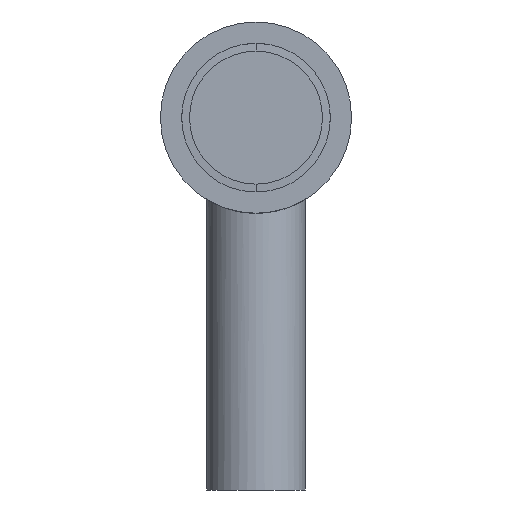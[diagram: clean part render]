
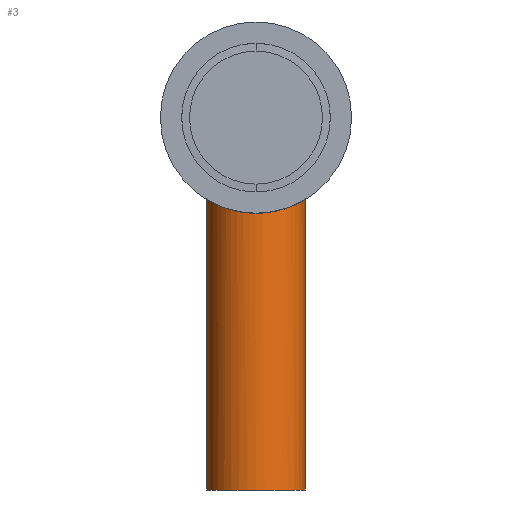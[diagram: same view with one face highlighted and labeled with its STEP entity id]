
A CAD part, front view. The second image highlights one B-rep face of the part: STEP entity #3.
In plain terms, the highlighted cylindrical face has radius 5 mm (diameter 10 mm), a partial arc.
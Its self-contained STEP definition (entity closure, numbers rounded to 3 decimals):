
#3 = ADVANCED_FACE ( 'NONE', ( #663 ), #19, .T. ) ;
#19 = CYLINDRICAL_SURFACE ( 'NONE', #236, 5. ) ;
#22 = CIRCLE ( 'NONE', #675, 5. ) ;
#40 = CARTESIAN_POINT ( 'NONE',  ( 1.637, -4.736, -11.772 ) ) ;
#53 = CARTESIAN_POINT ( 'NONE',  ( -4.992, -0.331, -10.524 ) ) ;
#57 = CARTESIAN_POINT ( 'NONE',  ( -1.636, -4.736, -11.772 ) ) ;
#62 = DIRECTION ( 'NONE',  ( 0., 0., 1. ) ) ;
#67 = ORIENTED_EDGE ( 'NONE', *, *, #222, .F. ) ;
#96 = CARTESIAN_POINT ( 'NONE',  ( 0., 0., -40. ) ) ;
#101 = DIRECTION ( 'NONE',  ( 1., 0., 0. ) ) ;
#107 = CARTESIAN_POINT ( 'NONE',  ( 4.487, -2.23, -10.808 ) ) ;
#116 = CARTESIAN_POINT ( 'NONE',  ( -4.933, -0.83, -10.559 ) ) ;
#121 = CARTESIAN_POINT ( 'NONE',  ( -0.673, -4.966, -11.888 ) ) ;
#130 = ORIENTED_EDGE ( 'NONE', *, *, #451, .F. ) ;
#135 = LINE ( 'NONE', #837, #639 ) ;
#136 = VECTOR ( 'NONE', #62, 1000. ) ;
#157 = CARTESIAN_POINT ( 'NONE',  ( 2.241, -4.482, -11.649 ) ) ;
#168 = CARTESIAN_POINT ( 'NONE',  ( 4.967, -0.662, -10.539 ) ) ;
#179 = CARTESIAN_POINT ( 'NONE',  ( -4.738, -1.63, -10.672 ) ) ;
#182 = CARTESIAN_POINT ( 'NONE',  ( 0., -5., -11.906 ) ) ;
#205 = EDGE_CURVE ( 'NONE', #407, #510, #22, .T. ) ;
#222 = EDGE_CURVE ( 'NONE', #300, #425, #562, .T. ) ;
#235 = ORIENTED_EDGE ( 'NONE', *, *, #629, .F. ) ;
#236 = AXIS2_PLACEMENT_3D ( 'NONE', #96, #273, #750 ) ;
#238 = DIRECTION ( 'NONE',  ( 0., 0., 1. ) ) ;
#247 = CARTESIAN_POINT ( 'NONE',  ( -4.33, -2.522, -10.889 ) ) ;
#253 = CARTESIAN_POINT ( 'NONE',  ( 5., 0., -40. ) ) ;
#273 = DIRECTION ( 'NONE',  ( 0., 0., 1. ) ) ;
#300 = VERTEX_POINT ( 'NONE', #785 ) ;
#301 = CARTESIAN_POINT ( 'NONE',  ( 3.768, -3.302, -11.148 ) ) ;
#311 = CARTESIAN_POINT ( 'NONE',  ( -3.764, -3.307, -11.15 ) ) ;
#316 = CARTESIAN_POINT ( 'NONE',  ( 5., 0., -10.519 ) ) ;
#334 = EDGE_LOOP ( 'NONE', ( #235, #524, #337, #67, #130 ) ) ;
#335 = B_SPLINE_CURVE_WITH_KNOTS ( 'NONE', 3,
 ( #589, #652, #53, #517, #116, #581, #179, #644, #247, #718, #311, #787, #385, #855, #444, #57, #521, #121, #584, #182 ),
 .UNSPECIFIED., .F., .F.,
 ( 4, 2, 2, 2, 2, 2, 2, 2, 2, 4 ),
 ( 0.024, 0.024, 0.025, 0.026, 0.027, 0.028, 0.029, 0.03, 0.031, 0.032 ),
 .UNSPECIFIED. ) ;
#337 = ORIENTED_EDGE ( 'NONE', *, *, #445, .T. ) ;
#357 = CARTESIAN_POINT ( 'NONE',  ( 0., 0., -40. ) ) ;
#369 = CARTESIAN_POINT ( 'NONE',  ( 4.334, -2.514, -10.887 ) ) ;
#372 = CARTESIAN_POINT ( 'NONE',  ( 5., 0., -10.519 ) ) ;
#385 = CARTESIAN_POINT ( 'NONE',  ( -3.063, -3.965, -11.414 ) ) ;
#388 = CARTESIAN_POINT ( 'NONE',  ( 5., 0., -40. ) ) ;
#407 = VERTEX_POINT ( 'NONE', #522 ) ;
#425 = VERTEX_POINT ( 'NONE', #316 ) ;
#427 = CARTESIAN_POINT ( 'NONE',  ( 1.316, -4.835, -11.822 ) ) ;
#430 = CARTESIAN_POINT ( 'NONE',  ( 3.315, -3.756, -11.325 ) ) ;
#444 = CARTESIAN_POINT ( 'NONE',  ( -2.237, -4.483, -11.65 ) ) ;
#445 = EDGE_CURVE ( 'NONE', #510, #425, #478, .T. ) ;
#451 = EDGE_CURVE ( 'NONE', #773, #300, #335, .T. ) ;
#478 = LINE ( 'NONE', #253, #136 ) ;
#502 = CARTESIAN_POINT ( 'NONE',  ( 3.066, -3.963, -11.413 ) ) ;
#510 = VERTEX_POINT ( 'NONE', #388 ) ;
#517 = CARTESIAN_POINT ( 'NONE',  ( -4.959, -0.663, -10.544 ) ) ;
#521 = CARTESIAN_POINT ( 'NONE',  ( -1.324, -4.833, -11.821 ) ) ;
#522 = CARTESIAN_POINT ( 'NONE',  ( -5., 0., -40. ) ) ;
#524 = ORIENTED_EDGE ( 'NONE', *, *, #205, .T. ) ;
#562 = B_SPLINE_CURVE_WITH_KNOTS ( 'NONE', 3,
 ( #692, #768, #625, #427, #40, #157, #619, #502, #430, #301, #771, #369, #107, #634, #705, #168, #776, #372 ),
 .UNSPECIFIED., .F., .F.,
 ( 4, 2, 2, 2, 2, 2, 2, 2, 4 ),
 ( 0., 0.001, 0.002, 0.003, 0.004, 0.005, 0.006, 0.007, 0.008 ),
 .UNSPECIFIED. ) ;
#564 = DIRECTION ( 'NONE',  ( 0., 0., 1. ) ) ;
#581 = CARTESIAN_POINT ( 'NONE',  ( -4.835, -1.317, -10.617 ) ) ;
#584 = CARTESIAN_POINT ( 'NONE',  ( -0.336, -5., -11.906 ) ) ;
#589 = CARTESIAN_POINT ( 'NONE',  ( -5., 0., -10.519 ) ) ;
#619 = CARTESIAN_POINT ( 'NONE',  ( 2.526, -4.327, -11.576 ) ) ;
#625 = CARTESIAN_POINT ( 'NONE',  ( 0.668, -4.966, -11.889 ) ) ;
#629 = EDGE_CURVE ( 'NONE', #407, #773, #135, .T. ) ;
#634 = CARTESIAN_POINT ( 'NONE',  ( 4.738, -1.631, -10.672 ) ) ;
#639 = VECTOR ( 'NONE', #564, 1000. ) ;
#644 = CARTESIAN_POINT ( 'NONE',  ( -4.485, -2.235, -10.809 ) ) ;
#652 = CARTESIAN_POINT ( 'NONE',  ( -5., -0.165, -10.519 ) ) ;
#663 = FACE_OUTER_BOUND ( 'NONE', #334, .T. ) ;
#675 = AXIS2_PLACEMENT_3D ( 'NONE', #357, #238, #101 ) ;
#692 = CARTESIAN_POINT ( 'NONE',  ( 0., -5., -11.906 ) ) ;
#705 = CARTESIAN_POINT ( 'NONE',  ( 4.837, -1.31, -10.616 ) ) ;
#718 = CARTESIAN_POINT ( 'NONE',  ( -3.971, -3.055, -11.059 ) ) ;
#750 = DIRECTION ( 'NONE',  ( 1., 0., 0. ) ) ;
#768 = CARTESIAN_POINT ( 'NONE',  ( 0.337, -5., -11.906 ) ) ;
#771 = CARTESIAN_POINT ( 'NONE',  ( 3.974, -3.052, -11.057 ) ) ;
#773 = VERTEX_POINT ( 'NONE', #817 ) ;
#776 = CARTESIAN_POINT ( 'NONE',  ( 5., -0.334, -10.519 ) ) ;
#785 = CARTESIAN_POINT ( 'NONE',  ( 0., -5., -11.906 ) ) ;
#787 = CARTESIAN_POINT ( 'NONE',  ( -3.31, -3.761, -11.328 ) ) ;
#817 = CARTESIAN_POINT ( 'NONE',  ( -5., 0., -10.519 ) ) ;
#837 = CARTESIAN_POINT ( 'NONE',  ( -5., 0., -40. ) ) ;
#855 = CARTESIAN_POINT ( 'NONE',  ( -2.528, -4.326, -11.575 ) ) ;
